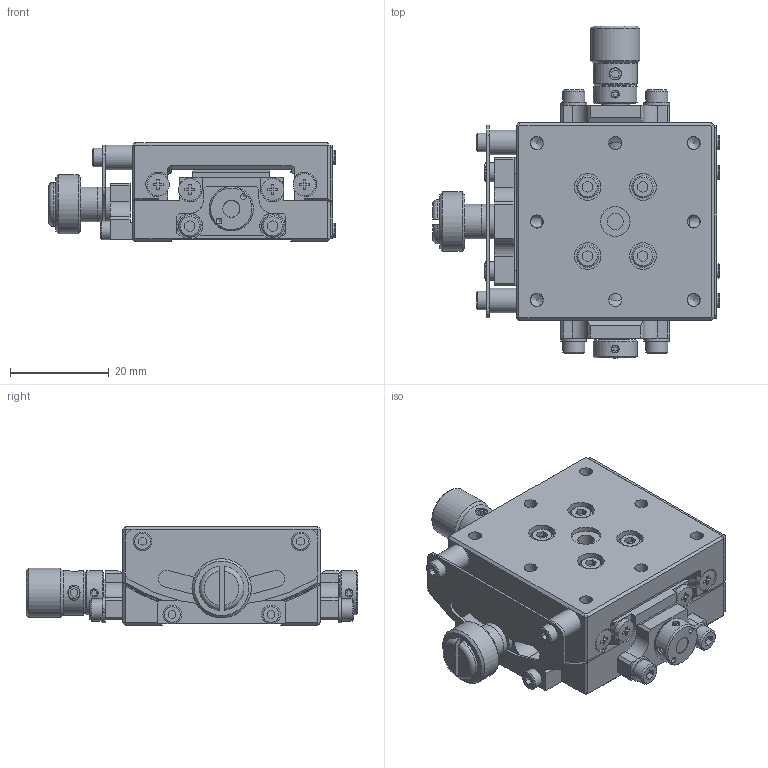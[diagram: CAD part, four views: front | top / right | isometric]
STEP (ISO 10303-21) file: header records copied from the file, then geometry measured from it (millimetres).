
FILE_DESCRIPTION((''),'2;1');
FILE_NAME('Y:\3DDATA\2_OpticalHard\02_海外製品\1_Stags\GOHT\□40\GOHT-40A20BUU\GOHT40A20BUU-M02-08001-TS11.stp','2014-01-15T17:43:20',('m.kadoya'),(''),'Autodesk Inventor 2008','Autodesk Inventor 2008','');
FILE_SCHEMA(('AUTOMOTIVE_DESIGN { 1 0 10303 214 1 1 1 1 }'));
Length unit declared in the file: millimetre
Products named in the file (3): GOHT40A20BUU-M02-08001-TS11; GOHT40A20BUU-M02-08001-S09; GOHT40A20BUU-M02-08001-S10
Assembly tree (2 placements, depth 2):
  GOHT40A20BUU-M02-08001-TS11
    GOHT40A20BUU-M02-08001-S09
    GOHT40A20BUU-M02-08001-S10
Bounding box: 58.1 x 67.2 x 20 mm (x, y, z)
Volume: 29625.6 mm3; surface area: 19996 mm2
Topology: 43 solids, 61 shells, 1100 faces, 2702 edges, 1753 vertices
Faces by surface type: plane 628, bspline 190, cylinder 166, cone 70, sphere 26, torus 20
Full cylindrical faces by diameter (mm): 1.5 x8, 1.567 x4, 2 x9, 2.459 x2, 2.5 x8, 3 x2, 3.8 x4, 4 x9, 4.2 x1, 4.5 x16, 5 x2, 5.28 x4, 5.4 x1, 5.8 x3, 6 x2, 6.5 x4, 6.72 x4, 7 x3, 9 x3, 10 x1, 12 x1
Entity records: 35003 total; most frequent: CARTESIAN_POINT 11380, DIRECTION 4692, ORIENTED_EDGE 4426, EDGE_CURVE 2213, AXIS2_PLACEMENT_3D 1725, VERTEX_POINT 1603, EDGE_LOOP 1568, VECTOR 1242
